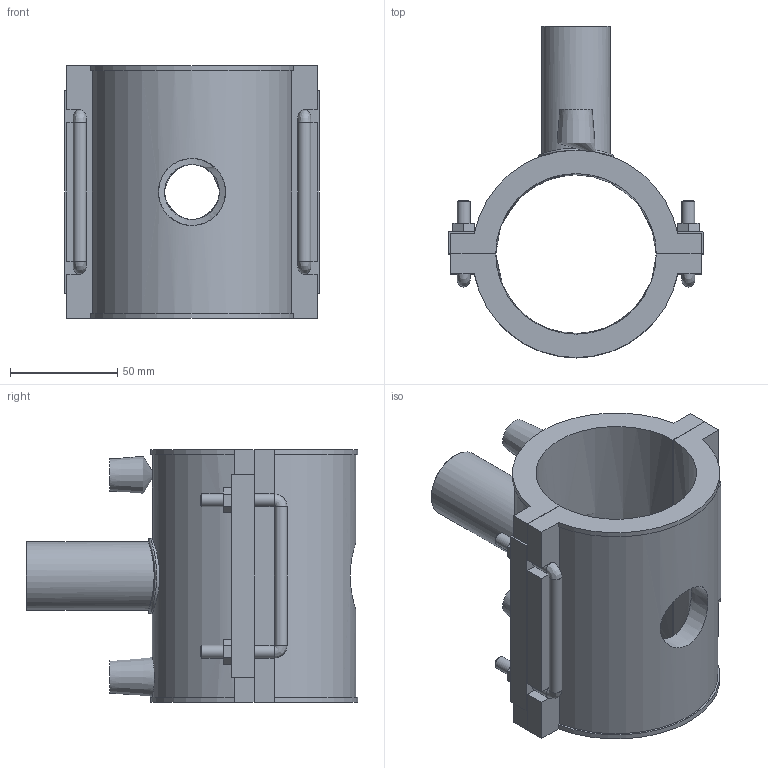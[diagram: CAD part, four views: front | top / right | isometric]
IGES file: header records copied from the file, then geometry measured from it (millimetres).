
Global section: file name: 495804075032.ipt; native system: Autodesk Inventor 2015; preprocessor: unknown; author: KIM; date: 20180426.120825; units: millimetre
Bounding box: 119 x 154.95 x 118 mm (x, y, z)
Volume: 386768.5 mm3; surface area: 103906.9 mm2
Topology: 2 solids, 2 shells, 133 faces, 340 edges, 214 vertices
Faces by surface type: plane 85, cylinder 22, revolution 10, bspline 9, cone 7
Full cylindrical faces by diameter (mm): 4 x2, 6 x10, 32 x1, 35.2 x1
